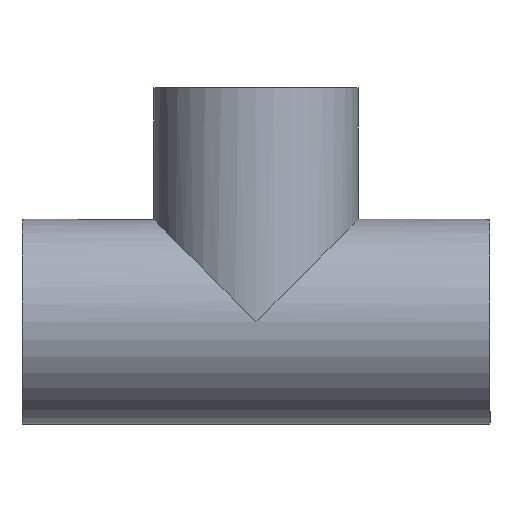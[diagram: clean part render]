
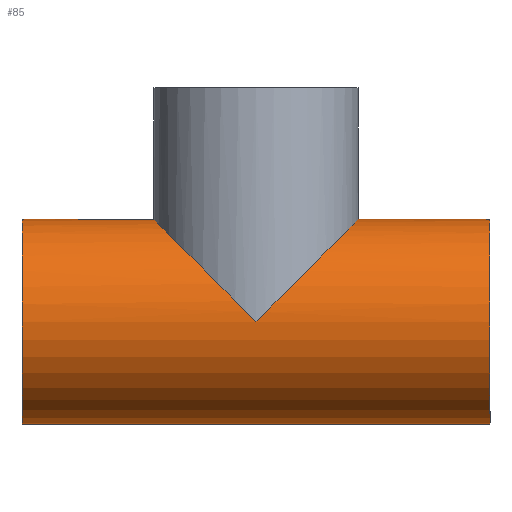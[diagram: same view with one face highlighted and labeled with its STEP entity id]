
A CAD part, front view. The second image highlights one B-rep face of the part: STEP entity #85.
In plain terms, the highlighted cylindrical face has radius 35 mm (diameter 70 mm), a full revolution.
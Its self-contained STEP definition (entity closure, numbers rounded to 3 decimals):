
#21 = EDGE_CURVE('',#22,#22,#24,.T.);
#22 = VERTEX_POINT('',#23);
#23 = CARTESIAN_POINT('',(-80.,0.,-35.));
#24 = SURFACE_CURVE('',#25,(#30,#42),.PCURVE_S1.);
#25 = CIRCLE('',#26,35.);
#26 = AXIS2_PLACEMENT_3D('',#27,#28,#29);
#27 = CARTESIAN_POINT('',(-80.,0.,0.));
#28 = DIRECTION('',(1.,-0.,0.));
#29 = DIRECTION('',(0.,0.,-1.));
#30 = PCURVE('',#31,#36);
#31 = PLANE('',#32);
#32 = AXIS2_PLACEMENT_3D('',#33,#34,#35);
#33 = CARTESIAN_POINT('',(-80.,0.,0.));
#34 = DIRECTION('',(1.,0.,0.));
#35 = DIRECTION('',(0.,0.,-1.));
#36 = DEFINITIONAL_REPRESENTATION('',(#37),#41);
#37 = CIRCLE('',#38,35.);
#38 = AXIS2_PLACEMENT_2D('',#39,#40);
#39 = CARTESIAN_POINT('',(0.,0.));
#40 = DIRECTION('',(1.,0.));
#41 = ( GEOMETRIC_REPRESENTATION_CONTEXT(2) 
PARAMETRIC_REPRESENTATION_CONTEXT() REPRESENTATION_CONTEXT('2D SPACE',''
  ) );
#42 = PCURVE('',#43,#48);
#43 = CYLINDRICAL_SURFACE('',#44,35.);
#44 = AXIS2_PLACEMENT_3D('',#45,#46,#47);
#45 = CARTESIAN_POINT('',(-80.,0.,0.));
#46 = DIRECTION('',(1.,0.,0.));
#47 = DIRECTION('',(0.,0.,-1.));
#48 = DEFINITIONAL_REPRESENTATION('',(#49),#53);
#49 = LINE('',#50,#51);
#50 = CARTESIAN_POINT('',(0.,0.));
#51 = VECTOR('',#52,1.);
#52 = DIRECTION('',(1.,0.));
#53 = ( GEOMETRIC_REPRESENTATION_CONTEXT(2) 
PARAMETRIC_REPRESENTATION_CONTEXT() REPRESENTATION_CONTEXT('2D SPACE',''
  ) );
#85 = ADVANCED_FACE('',(#86,#140),#43,.T.);
#86 = FACE_BOUND('',#87,.T.);
#87 = EDGE_LOOP('',(#88,#111,#138,#139));
#88 = ORIENTED_EDGE('',*,*,#89,.T.);
#89 = EDGE_CURVE('',#22,#90,#92,.T.);
#90 = VERTEX_POINT('',#91);
#91 = CARTESIAN_POINT('',(80.,0.,-35.));
#92 = SEAM_CURVE('',#93,(#97,#104),.PCURVE_S1.);
#93 = LINE('',#94,#95);
#94 = CARTESIAN_POINT('',(-80.,0.,-35.));
#95 = VECTOR('',#96,1.);
#96 = DIRECTION('',(1.,0.,0.));
#97 = PCURVE('',#43,#98);
#98 = DEFINITIONAL_REPRESENTATION('',(#99),#103);
#99 = LINE('',#100,#101);
#100 = CARTESIAN_POINT('',(6.283,-0.));
#101 = VECTOR('',#102,1.);
#102 = DIRECTION('',(0.,1.));
#103 = ( GEOMETRIC_REPRESENTATION_CONTEXT(2) 
PARAMETRIC_REPRESENTATION_CONTEXT() REPRESENTATION_CONTEXT('2D SPACE',''
  ) );
#104 = PCURVE('',#43,#105);
#105 = DEFINITIONAL_REPRESENTATION('',(#106),#110);
#106 = LINE('',#107,#108);
#107 = CARTESIAN_POINT('',(0.,-0.));
#108 = VECTOR('',#109,1.);
#109 = DIRECTION('',(0.,1.));
#110 = ( GEOMETRIC_REPRESENTATION_CONTEXT(2) 
PARAMETRIC_REPRESENTATION_CONTEXT() REPRESENTATION_CONTEXT('2D SPACE',''
  ) );
#111 = ORIENTED_EDGE('',*,*,#112,.F.);
#112 = EDGE_CURVE('',#90,#90,#113,.T.);
#113 = SURFACE_CURVE('',#114,(#119,#126),.PCURVE_S1.);
#114 = CIRCLE('',#115,35.);
#115 = AXIS2_PLACEMENT_3D('',#116,#117,#118);
#116 = CARTESIAN_POINT('',(80.,0.,0.));
#117 = DIRECTION('',(1.,-0.,0.));
#118 = DIRECTION('',(0.,0.,-1.));
#119 = PCURVE('',#43,#120);
#120 = DEFINITIONAL_REPRESENTATION('',(#121),#125);
#121 = LINE('',#122,#123);
#122 = CARTESIAN_POINT('',(0.,160.));
#123 = VECTOR('',#124,1.);
#124 = DIRECTION('',(1.,0.));
#125 = ( GEOMETRIC_REPRESENTATION_CONTEXT(2) 
PARAMETRIC_REPRESENTATION_CONTEXT() REPRESENTATION_CONTEXT('2D SPACE',''
  ) );
#126 = PCURVE('',#127,#132);
#127 = PLANE('',#128);
#128 = AXIS2_PLACEMENT_3D('',#129,#130,#131);
#129 = CARTESIAN_POINT('',(80.,0.,0.));
#130 = DIRECTION('',(1.,0.,0.));
#131 = DIRECTION('',(0.,0.,-1.));
#132 = DEFINITIONAL_REPRESENTATION('',(#133),#137);
#133 = CIRCLE('',#134,35.);
#134 = AXIS2_PLACEMENT_2D('',#135,#136);
#135 = CARTESIAN_POINT('',(0.,0.));
#136 = DIRECTION('',(1.,0.));
#137 = ( GEOMETRIC_REPRESENTATION_CONTEXT(2) 
PARAMETRIC_REPRESENTATION_CONTEXT() REPRESENTATION_CONTEXT('2D SPACE',''
  ) );
#138 = ORIENTED_EDGE('',*,*,#89,.F.);
#139 = ORIENTED_EDGE('',*,*,#21,.T.);
#140 = FACE_BOUND('',#141,.T.);
#141 = EDGE_LOOP('',(#142,#189,#225));
#142 = ORIENTED_EDGE('',*,*,#143,.F.);
#143 = EDGE_CURVE('',#144,#146,#148,.T.);
#144 = VERTEX_POINT('',#145);
#145 = CARTESIAN_POINT('',(0.,35.,0.));
#146 = VERTEX_POINT('',#147);
#147 = CARTESIAN_POINT('',(0.,-35.,0.));
#148 = SURFACE_CURVE('',#149,(#154,#169),.PCURVE_S1.);
#149 = ELLIPSE('',#150,49.497,35.);
#150 = AXIS2_PLACEMENT_3D('',#151,#152,#153);
#151 = CARTESIAN_POINT('',(0.,0.,0.));
#152 = DIRECTION('',(0.707,-0.,0.707));
#153 = DIRECTION('',(0.707,0.,-0.707));
#154 = PCURVE('',#43,#155);
#155 = DEFINITIONAL_REPRESENTATION('',(#156),#168);
#156 = B_SPLINE_CURVE_WITH_KNOTS('',10,(#157,#158,#159,#160,#161,#162,
    #163,#164,#165,#166,#167),.UNSPECIFIED.,.F.,.F.,(11,11),(
    1.571,4.712),.PIECEWISE_BEZIER_KNOTS.);
#157 = CARTESIAN_POINT('',(1.571,80.));
#158 = CARTESIAN_POINT('',(1.885,69.004));
#159 = CARTESIAN_POINT('',(2.199,58.009));
#160 = CARTESIAN_POINT('',(2.513,48.521));
#161 = CARTESIAN_POINT('',(2.827,42.047));
#162 = CARTESIAN_POINT('',(3.142,39.74));
#163 = CARTESIAN_POINT('',(3.456,42.047));
#164 = CARTESIAN_POINT('',(3.77,48.521));
#165 = CARTESIAN_POINT('',(4.084,58.009));
#166 = CARTESIAN_POINT('',(4.398,69.004));
#167 = CARTESIAN_POINT('',(4.712,80.));
#168 = ( GEOMETRIC_REPRESENTATION_CONTEXT(2) 
PARAMETRIC_REPRESENTATION_CONTEXT() REPRESENTATION_CONTEXT('2D SPACE',''
  ) );
#169 = PCURVE('',#170,#175);
#170 = CYLINDRICAL_SURFACE('',#171,35.);
#171 = AXIS2_PLACEMENT_3D('',#172,#173,#174);
#172 = CARTESIAN_POINT('',(0.,0.,0.));
#173 = DIRECTION('',(0.,0.,1.));
#174 = DIRECTION('',(1.,0.,0.));
#175 = DEFINITIONAL_REPRESENTATION('',(#176),#188);
#176 = B_SPLINE_CURVE_WITH_KNOTS('',10,(#177,#178,#179,#180,#181,#182,
    #183,#184,#185,#186,#187),.UNSPECIFIED.,.F.,.F.,(11,11),(
    1.571,4.712),.PIECEWISE_BEZIER_KNOTS.);
#177 = CARTESIAN_POINT('',(1.571,0.));
#178 = CARTESIAN_POINT('',(1.885,10.996));
#179 = CARTESIAN_POINT('',(2.199,21.991));
#180 = CARTESIAN_POINT('',(2.513,31.479));
#181 = CARTESIAN_POINT('',(2.827,37.953));
#182 = CARTESIAN_POINT('',(3.142,40.26));
#183 = CARTESIAN_POINT('',(3.456,37.953));
#184 = CARTESIAN_POINT('',(3.77,31.479));
#185 = CARTESIAN_POINT('',(4.084,21.991));
#186 = CARTESIAN_POINT('',(4.398,10.996));
#187 = CARTESIAN_POINT('',(4.712,0.));
#188 = ( GEOMETRIC_REPRESENTATION_CONTEXT(2) 
PARAMETRIC_REPRESENTATION_CONTEXT() REPRESENTATION_CONTEXT('2D SPACE',''
  ) );
#189 = ORIENTED_EDGE('',*,*,#190,.T.);
#190 = EDGE_CURVE('',#144,#191,#193,.T.);
#191 = VERTEX_POINT('',#192);
#192 = CARTESIAN_POINT('',(35.,0.,35.));
#193 = SURFACE_CURVE('',#194,(#199,#212),.PCURVE_S1.);
#194 = ELLIPSE('',#195,49.497,35.);
#195 = AXIS2_PLACEMENT_3D('',#196,#197,#198);
#196 = CARTESIAN_POINT('',(0.,0.,0.));
#197 = DIRECTION('',(0.707,0.,-0.707));
#198 = DIRECTION('',(0.707,0.,0.707));
#199 = PCURVE('',#43,#200);
#200 = DEFINITIONAL_REPRESENTATION('',(#201),#211);
#201 = B_SPLINE_CURVE_WITH_KNOTS('',8,(#202,#203,#204,#205,#206,#207,
    #208,#209,#210),.UNSPECIFIED.,.F.,.F.,(9,9),(4.712,
    6.283),.PIECEWISE_BEZIER_KNOTS.);
#202 = CARTESIAN_POINT('',(1.571,80.));
#203 = CARTESIAN_POINT('',(1.767,86.872));
#204 = CARTESIAN_POINT('',(1.963,93.744));
#205 = CARTESIAN_POINT('',(2.16,100.213));
#206 = CARTESIAN_POINT('',(2.356,105.874));
#207 = CARTESIAN_POINT('',(2.553,110.374));
#208 = CARTESIAN_POINT('',(2.749,113.458));
#209 = CARTESIAN_POINT('',(2.945,115.));
#210 = CARTESIAN_POINT('',(3.142,115.));
#211 = ( GEOMETRIC_REPRESENTATION_CONTEXT(2) 
PARAMETRIC_REPRESENTATION_CONTEXT() REPRESENTATION_CONTEXT('2D SPACE',''
  ) );
#212 = PCURVE('',#170,#213);
#213 = DEFINITIONAL_REPRESENTATION('',(#214),#224);
#214 = B_SPLINE_CURVE_WITH_KNOTS('',8,(#215,#216,#217,#218,#219,#220,
    #221,#222,#223),.UNSPECIFIED.,.F.,.F.,(9,9),(4.712,
    6.283),.PIECEWISE_BEZIER_KNOTS.);
#215 = CARTESIAN_POINT('',(1.571,0.));
#216 = CARTESIAN_POINT('',(1.374,6.872));
#217 = CARTESIAN_POINT('',(1.178,13.744));
#218 = CARTESIAN_POINT('',(0.982,20.213));
#219 = CARTESIAN_POINT('',(0.785,25.874));
#220 = CARTESIAN_POINT('',(0.589,30.374));
#221 = CARTESIAN_POINT('',(0.393,33.458));
#222 = CARTESIAN_POINT('',(0.196,35.));
#223 = CARTESIAN_POINT('',(0.,35.));
#224 = ( GEOMETRIC_REPRESENTATION_CONTEXT(2) 
PARAMETRIC_REPRESENTATION_CONTEXT() REPRESENTATION_CONTEXT('2D SPACE',''
  ) );
#225 = ORIENTED_EDGE('',*,*,#226,.T.);
#226 = EDGE_CURVE('',#191,#146,#227,.T.);
#227 = SURFACE_CURVE('',#228,(#233,#246),.PCURVE_S1.);
#228 = ELLIPSE('',#229,49.497,35.);
#229 = AXIS2_PLACEMENT_3D('',#230,#231,#232);
#230 = CARTESIAN_POINT('',(0.,0.,0.));
#231 = DIRECTION('',(0.707,0.,-0.707));
#232 = DIRECTION('',(0.707,0.,0.707));
#233 = PCURVE('',#43,#234);
#234 = DEFINITIONAL_REPRESENTATION('',(#235),#245);
#235 = B_SPLINE_CURVE_WITH_KNOTS('',8,(#236,#237,#238,#239,#240,#241,
    #242,#243,#244),.UNSPECIFIED.,.F.,.F.,(9,9),(0.,1.571),
  .PIECEWISE_BEZIER_KNOTS.);
#236 = CARTESIAN_POINT('',(3.142,115.));
#237 = CARTESIAN_POINT('',(3.338,115.));
#238 = CARTESIAN_POINT('',(3.534,113.458));
#239 = CARTESIAN_POINT('',(3.731,110.374));
#240 = CARTESIAN_POINT('',(3.927,105.874));
#241 = CARTESIAN_POINT('',(4.123,100.213));
#242 = CARTESIAN_POINT('',(4.32,93.744));
#243 = CARTESIAN_POINT('',(4.516,86.872));
#244 = CARTESIAN_POINT('',(4.712,80.));
#245 = ( GEOMETRIC_REPRESENTATION_CONTEXT(2) 
PARAMETRIC_REPRESENTATION_CONTEXT() REPRESENTATION_CONTEXT('2D SPACE',''
  ) );
#246 = PCURVE('',#170,#247);
#247 = DEFINITIONAL_REPRESENTATION('',(#248),#258);
#248 = B_SPLINE_CURVE_WITH_KNOTS('',8,(#249,#250,#251,#252,#253,#254,
    #255,#256,#257),.UNSPECIFIED.,.F.,.F.,(9,9),(0.,1.571),
  .PIECEWISE_BEZIER_KNOTS.);
#249 = CARTESIAN_POINT('',(6.283,35.));
#250 = CARTESIAN_POINT('',(6.087,35.));
#251 = CARTESIAN_POINT('',(5.89,33.458));
#252 = CARTESIAN_POINT('',(5.694,30.374));
#253 = CARTESIAN_POINT('',(5.498,25.874));
#254 = CARTESIAN_POINT('',(5.301,20.213));
#255 = CARTESIAN_POINT('',(5.105,13.744));
#256 = CARTESIAN_POINT('',(4.909,6.872));
#257 = CARTESIAN_POINT('',(4.712,0.));
#258 = ( GEOMETRIC_REPRESENTATION_CONTEXT(2) 
PARAMETRIC_REPRESENTATION_CONTEXT() REPRESENTATION_CONTEXT('2D SPACE',''
  ) );
